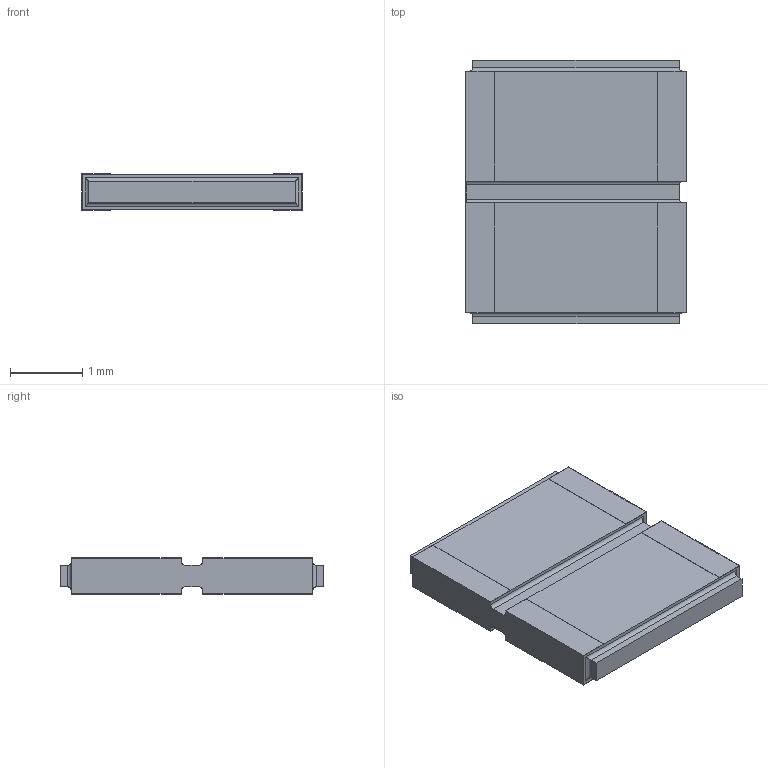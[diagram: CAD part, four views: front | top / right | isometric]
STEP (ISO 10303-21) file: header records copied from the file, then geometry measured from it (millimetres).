
FILE_DESCRIPTION(/* description */ (''),/* implementation_level */ '2;1');
FILE_NAME(/* name */ 'S:\DOCUMENT\AUTOCAD\3D_Modèles\10_3D-pour-VISHAY-COM\PRA\PRA182\PRA182-C2_à_C8\10_IGES\PRA182C2_B-or-N-or-G.stp',/* time_stamp */ '2017-12-19T09:05:38+01:00',/* author */ ('dparmentier'),/* organization */ ('unknown'),/* preprocessor_version */ 'ST-DEVELOPER v17',/* originating_system */ 'Autodesk Inventor 2018',/* authorisation */ '');
FILE_SCHEMA (('AUTOMOTIVE_DESIGN { 1 0 10303 214 3 1 1 }'));
Length unit declared in the file: millimetre
Products named in the file (1): PRA182C2_B-or-N-or-G
Bounding box: 3.06 x 3.65 x 0.5 mm (x, y, z)
Volume: 5.1 mm3; surface area: 45.2 mm2
Topology: 4 solids, 4 shells, 84 faces, 210 edges, 136 vertices
Faces by surface type: plane 66, cylinder 18
Entity records: 2512 total; most frequent: CARTESIAN_POINT 431, ORIENTED_EDGE 420, DIRECTION 404, EDGE_CURVE 210, LINE 186, VECTOR 186, VERTEX_POINT 136, AXIS2_PLACEMENT_3D 109
